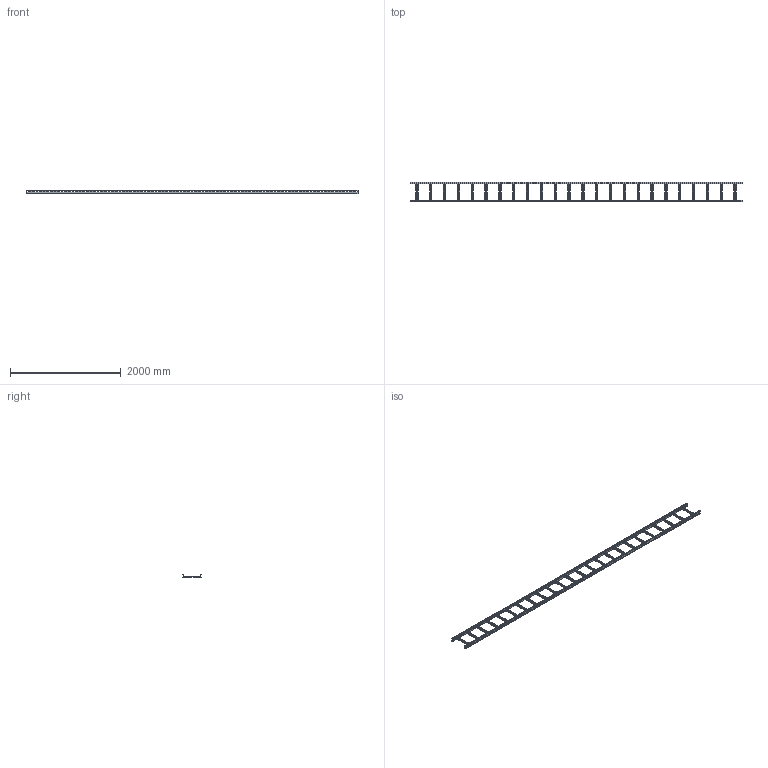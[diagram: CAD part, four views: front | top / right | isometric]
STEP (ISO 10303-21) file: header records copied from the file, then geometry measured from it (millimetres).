
FILE_DESCRIPTION(/* description */ ('','CAx-IF Rec.Pracs.---Representation and Presentation of Product Manufacturing Information (PMI)---4.0---2014-10-13'),/* implementation_level */ '2;1');
FILE_NAME(/* name */ 'Eurostrut_ECL60-300_CableLadder-3DView-{3D}.step',/* time_stamp */ '2026-09-03T08:22:42+02:00',/* author */ (''),/* organization */ (''),/* preprocessor_version */ 'ST-DEVELOPER v20.1',/* originating_system */ 'Autodesk Revit 2027 27.2.0.39',/* authorisation */ '');
FILE_SCHEMA (('AP242_MANAGED_MODEL_BASED_3D_ENGINEERING_MIM_LF { 1 0 10303 442 2 1 4 }'));
Length unit declared in the file: millimetre
Products named in the file (4): TopLevelAssembly; 60mm; 60mm_1; Cable Ladder Rung_Slotted
Assembly tree (26 placements, depth 2):
  TopLevelAssembly
    60mm
    60mm_1
    Cable Ladder Rung_Slotted  x24
Bounding box: 6000 x 346 x 60 mm (x, y, z)
Volume: 3098415.6 mm3; surface area: 4220232.4 mm2
Topology: 26 solids, 26 shells, 2892 faces, 8520 edges, 5680 vertices
Faces by surface type: plane 2052, bspline 720, cylinder 120
Entity records: 38340 total; most frequent: CARTESIAN_POINT 7510, ORIENTED_EDGE 6552, DIRECTION 5588, EDGE_CURVE 3276, LINE 3160, VECTOR 3160, VERTEX_POINT 2184, EDGE_LOOP 1608
